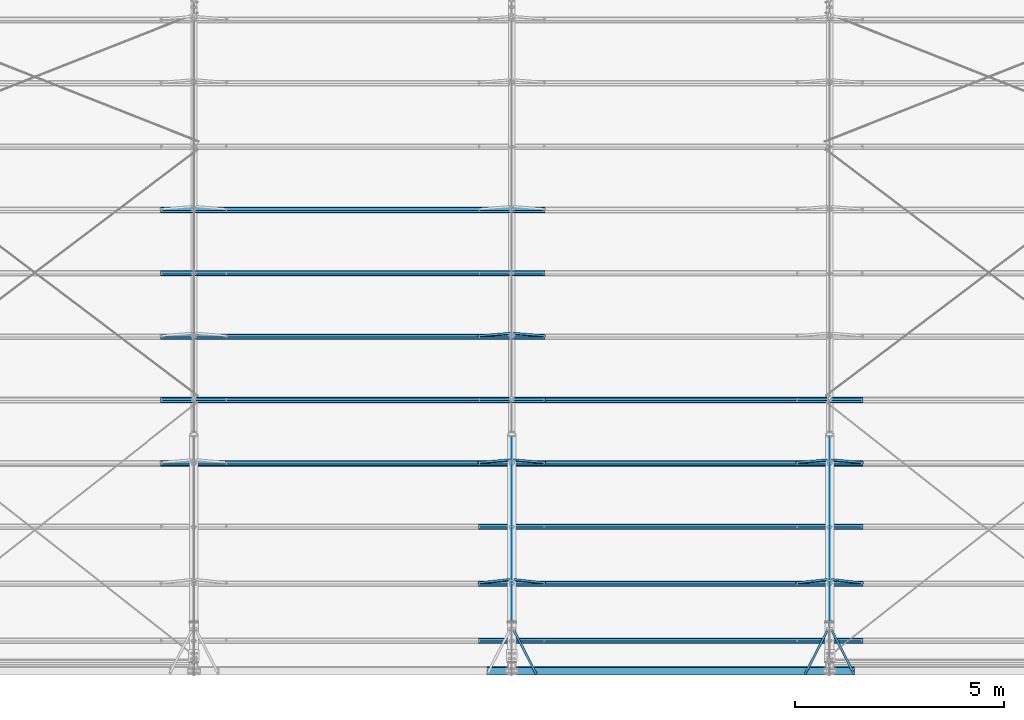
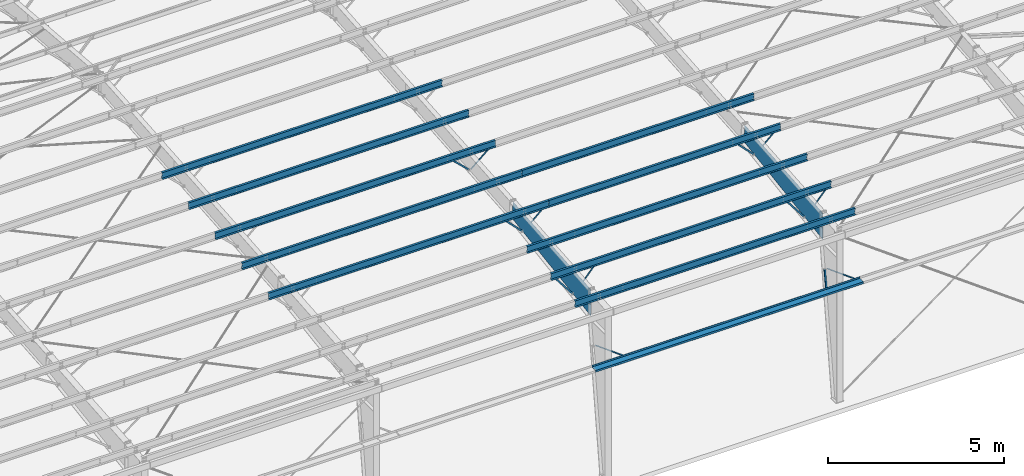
# One storey, part 9 of 185: 16 beams, 10 members, 26 elements without a shape of their own.
"""IFC2X3 building model written with IfcOpenShell, lengths in millimetres."""

from ifc_helpers import new_model, si_unit, frame, origin_with_axes, origin_2d_with_axis, place, context, subcontext, project, spatial, polyline, rectangle, outline, extrude, clip, halfspace, material, type_object, element, aggregate, save


model = new_model("IFC2X3")

# Units and contexts
model_context = context("Model", 3, precision=1e-05, world=origin_with_axes())
body_context = subcontext(model_context, "Body", "Model", "MODEL_VIEW")
ifc_project = project(units=[si_unit("LENGTHUNIT", "METRE", prefix="MILLI"), si_unit("AREAUNIT", "SQUARE_METRE"), si_unit("VOLUMEUNIT", "CUBIC_METRE"), si_unit("MASSUNIT", "GRAM", prefix="KILO"), si_unit("TIMEUNIT", "SECOND"), si_unit("PLANEANGLEUNIT", "RADIAN"), si_unit("SOLIDANGLEUNIT", "STERADIAN"), si_unit("THERMODYNAMICTEMPERATUREUNIT", "DEGREE_CELSIUS"), si_unit("LUMINOUSINTENSITYUNIT", "LUMEN")], contexts=[model_context])

# Site, building, storey
site_placement = place(None, origin_with_axes())
site = spatial("IfcSite", under=ifc_project, at=site_placement, Name="Undefined", CompositionType="ELEMENT")
building_placement = place(site_placement, origin_with_axes())
building = spatial("IfcBuilding", under=site, at=building_placement, Name="Undefined", CompositionType="ELEMENT")
storey_placement = place(building_placement, origin_with_axes())
storey = spatial("IfcBuildingStorey", under=building, at=storey_placement, Name="Undefined", CompositionType="ELEMENT", Elevation=0.0)

# Assembly, beam
assembly_1_placement = place(storey_placement, origin_with_axes())
assembly_1 = element("IfcElementAssembly", 1, at=assembly_1_placement, inside=storey, Name="Steel Assembly", AssemblyPlace="NOTDEFINED", PredefinedType="RIGID_FRAME")
ifc_material = material(Name="STEEL/55")
beam_type_1 = type_object("IfcBeamType", Name="8Z15", PredefinedType="NOTDEFINED")
beam_1_placement = place(assembly_1_placement, frame((22479.0, 823.080489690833, 6062.63787351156), z_axis=(0.0, 0.0830454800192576, -0.996545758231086), x_axis=(1.0, 0.0, 0.0)))
beam_1 = element("IfcBeam", 2, at=beam_1_placement, type_object=beam_type_1, material=ifc_material, Name="Purlin", ObjectType="8Z15", context=body_context, shape_type="Clipping", body=[
    clip(clip(extrude(outline(polyline([(-75.75, 87.0100021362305), (-63.5, 101.599998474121), (1.5900000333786, 101.599998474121), (1.5900000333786, -98.4199981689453), (62.0200004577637, -98.4199981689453), (73.3099975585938, -84.9700012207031), (75.7399978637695, -87.0100021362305), (63.5, -101.599998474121), (-1.5900000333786, -101.599998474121), (-1.5900000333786, 98.4199981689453), (-62.0200004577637, 98.4199981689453), (-73.3099975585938, 84.9700012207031), (-75.75, 87.0100021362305)])), frame((8420.1, 0.0, 0.0), z_axis=(-1.0, 0.0, 0.0), x_axis=(0.0, -1.0, 0.0)), (0.0, 0.0, 1.0), 9220.2), halfspace(frame((8420.1, 2.91402102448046e-09, -101.600000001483), z_axis=(-1.0, 0.0, 0.0), x_axis=(0.0, 0.0, 1.0)), True)), halfspace(frame((-800.1, 2.91402102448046e-09, -101.600000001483), z_axis=(-1.0, 0.0, 0.0), x_axis=(0.0, 0.0, 1.0)), False)),
])
aggregate(assembly_1, [beam_1])

assembly_2_placement = place(storey_placement, origin_with_axes())
assembly_2 = element("IfcElementAssembly", 3, at=assembly_2_placement, inside=storey, Name="Steel Assembly", AssemblyPlace="NOTDEFINED", PredefinedType="RIGID_FRAME")
beam_2_placement = place(assembly_2_placement, frame((22479.0, 2189.94265168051, 6176.54305390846), z_axis=(0.0, 0.0830454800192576, -0.996545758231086), x_axis=(1.0, 0.0, 0.0)))
beam_2 = element("IfcBeam", 4, at=beam_2_placement, type_object=beam_type_1, material=ifc_material, Name="Purlin", ObjectType="8Z15", context=body_context, shape_type="Clipping", body=[
    clip(clip(extrude(outline(polyline([(-75.75, 87.0100021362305), (-63.5, 101.599998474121), (1.5900000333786, 101.599998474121), (1.5900000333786, -98.4199981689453), (62.0200004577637, -98.4199981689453), (73.3099975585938, -84.9700012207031), (75.7399978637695, -87.0100021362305), (63.5, -101.599998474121), (-1.5900000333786, -101.599998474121), (-1.5900000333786, 98.4199981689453), (-62.0200004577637, 98.4199981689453), (-73.3099975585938, 84.9700012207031), (-75.75, 87.0100021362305)])), frame((8420.1, 0.0, 0.0), z_axis=(-1.0, 0.0, 0.0), x_axis=(0.0, -1.0, 0.0)), (0.0, 0.0, 1.0), 9220.2), halfspace(frame((8420.1, 2.91402102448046e-09, -101.600000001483), z_axis=(-1.0, 0.0, 0.0), x_axis=(0.0, 0.0, 1.0)), True)), halfspace(frame((-800.1, 2.91402102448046e-09, -101.600000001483), z_axis=(-1.0, 0.0, 0.0), x_axis=(0.0, 0.0, 1.0)), False)),
])
aggregate(assembly_2, [beam_2])

assembly_3_placement = place(storey_placement, origin_with_axes())
assembly_3 = element("IfcElementAssembly", 5, at=assembly_3_placement, inside=storey, Name="Steel Assembly", AssemblyPlace="NOTDEFINED", PredefinedType="RIGID_FRAME")
beam_3_placement = place(assembly_3_placement, frame((22479.0, 3556.8048136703, 6290.44823430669), z_axis=(0.0, 0.0830454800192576, -0.996545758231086), x_axis=(1.0, 0.0, 0.0)))
beam_3 = element("IfcBeam", 6, at=beam_3_placement, type_object=beam_type_1, material=ifc_material, Name="Purlin", ObjectType="8Z15", context=body_context, shape_type="Clipping", body=[
    clip(clip(extrude(outline(polyline([(-75.75, 87.0100021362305), (-63.5, 101.599998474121), (1.5900000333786, 101.599998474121), (1.5900000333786, -98.4199981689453), (62.0200004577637, -98.4199981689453), (73.3099975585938, -84.9700012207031), (75.7399978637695, -87.0100021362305), (63.5, -101.599998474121), (-1.5900000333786, -101.599998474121), (-1.5900000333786, 98.4199981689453), (-62.0200004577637, 98.4199981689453), (-73.3099975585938, 84.9700012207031), (-75.75, 87.0100021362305)])), frame((8420.1, 0.0, 0.0), z_axis=(-1.0, 0.0, 0.0), x_axis=(0.0, -1.0, 0.0)), (0.0, 0.0, 1.0), 9220.2), halfspace(frame((8420.1, 2.91402102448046e-09, -101.600000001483), z_axis=(-1.0, 0.0, 0.0), x_axis=(0.0, 0.0, 1.0)), True)), halfspace(frame((-800.1, 2.91402102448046e-09, -101.600000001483), z_axis=(-1.0, 0.0, 0.0), x_axis=(0.0, 0.0, 1.0)), False)),
])
aggregate(assembly_3, [beam_3])

assembly_4_placement = place(storey_placement, origin_with_axes())
assembly_4 = element("IfcElementAssembly", 7, at=assembly_4_placement, inside=storey, Name="Steel Assembly", AssemblyPlace="NOTDEFINED", PredefinedType="RIGID_FRAME")
beam_4_placement = place(assembly_4_placement, frame((22479.0, 5075.54054921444, 6417.00954585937), z_axis=(0.0, 0.0830454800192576, -0.996545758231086), x_axis=(1.0, 0.0, 0.0)))
beam_4 = element("IfcBeam", 8, at=beam_4_placement, type_object=beam_type_1, material=ifc_material, Name="Purlin", ObjectType="8Z15", context=body_context, shape_type="Clipping", body=[
    clip(clip(extrude(outline(polyline([(-75.75, 87.0100021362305), (-63.5, 101.599998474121), (1.5900000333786, 101.599998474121), (1.5900000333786, -98.4199981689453), (62.0200004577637, -98.4199981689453), (73.3099975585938, -84.9700012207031), (75.7399978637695, -87.0100021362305), (63.5, -101.599998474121), (-1.5900000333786, -101.599998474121), (-1.5900000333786, 98.4199981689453), (-62.0200004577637, 98.4199981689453), (-73.3099975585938, 84.9700012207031), (-75.75, 87.0100021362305)])), frame((8420.1, 0.0, 0.0), z_axis=(-1.0, 0.0, 0.0), x_axis=(0.0, -1.0, 0.0)), (0.0, 0.0, 1.0), 9220.2), halfspace(frame((8420.1, 2.91402102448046e-09, -101.600000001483), z_axis=(-1.0, 0.0, 0.0), x_axis=(0.0, 0.0, 1.0)), True)), halfspace(frame((-800.1, 2.91402102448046e-09, -101.600000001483), z_axis=(-1.0, 0.0, 0.0), x_axis=(0.0, 0.0, 1.0)), False)),
])
aggregate(assembly_4, [beam_4])

assembly_5_placement = place(storey_placement, origin_with_axes())
assembly_5 = element("IfcElementAssembly", 9, at=assembly_5_placement, inside=storey, Name="Steel Assembly", AssemblyPlace="NOTDEFINED", PredefinedType="RIGID_FRAME")
beam_5_placement = place(assembly_5_placement, frame((22479.0, 6594.27628475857, 6543.57085741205), z_axis=(0.0, 0.0830454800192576, -0.996545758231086), x_axis=(1.0, 0.0, 0.0)))
beam_5 = element("IfcBeam", 10, at=beam_5_placement, type_object=beam_type_1, material=ifc_material, Name="Purlin", ObjectType="8Z15", context=body_context, shape_type="Clipping", body=[
    clip(clip(extrude(outline(polyline([(-75.75, 87.0100021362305), (-63.5, 101.599998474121), (1.5900000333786, 101.599998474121), (1.5900000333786, -98.4199981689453), (62.0200004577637, -98.4199981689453), (73.3099975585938, -84.9700012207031), (75.7399978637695, -87.0100021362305), (63.5, -101.599998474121), (-1.5900000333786, -101.599998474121), (-1.5900000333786, 98.4199981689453), (-62.0200004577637, 98.4199981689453), (-73.3099975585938, 84.9700012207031), (-75.75, 87.0100021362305)])), frame((8420.1, 0.0, 0.0), z_axis=(-1.0, 0.0, 0.0), x_axis=(0.0, -1.0, 0.0)), (0.0, 0.0, 1.0), 9220.2), halfspace(frame((8420.1, 2.91402102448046e-09, -101.600000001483), z_axis=(-1.0, 0.0, 0.0), x_axis=(0.0, 0.0, 1.0)), True)), halfspace(frame((-800.1, 2.91402102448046e-09, -101.600000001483), z_axis=(-1.0, 0.0, 0.0), x_axis=(0.0, 0.0, 1.0)), False)),
])
aggregate(assembly_5, [beam_5])

assembly_6_placement = place(storey_placement, origin_with_axes())
assembly_6 = element("IfcElementAssembly", 11, at=assembly_6_placement, inside=storey, Name="Steel Assembly", AssemblyPlace="NOTDEFINED", PredefinedType="RIGID_FRAME")
beam_6_placement = place(assembly_6_placement, frame((14859.0, 5075.54054921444, 6417.00954585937), z_axis=(0.0, 0.0830454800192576, -0.996545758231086), x_axis=(1.0, 0.0, 0.0)))
beam_6 = element("IfcBeam", 12, at=beam_6_placement, type_object=beam_type_1, material=ifc_material, Name="Purlin", ObjectType="8Z15", context=body_context, shape_type="Clipping", body=[
    clip(clip(extrude(outline(polyline([(-75.75, 87.0100021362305), (-63.5, 101.599998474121), (1.5900000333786, 101.599998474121), (1.5900000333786, -98.4199981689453), (62.0200004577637, -98.4199981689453), (73.3099975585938, -84.9700012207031), (75.7399978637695, -87.0100021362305), (63.5, -101.599998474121), (-1.5900000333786, -101.599998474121), (-1.5900000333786, 98.4199981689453), (-62.0200004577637, 98.4199981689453), (-73.3099975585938, 84.9700012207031), (-75.75, 87.0100021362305)])), frame((8420.1, 0.0, 0.0), z_axis=(-1.0, 0.0, 0.0), x_axis=(0.0, -1.0, 0.0)), (0.0, 0.0, 1.0), 9220.2), halfspace(frame((8420.1, 2.91402102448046e-09, -101.600000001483), z_axis=(-1.0, 0.0, 0.0), x_axis=(0.0, 0.0, 1.0)), True)), halfspace(frame((-800.1, 2.91402102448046e-09, -101.600000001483), z_axis=(-1.0, 0.0, 0.0), x_axis=(0.0, 0.0, 1.0)), False)),
])
aggregate(assembly_6, [beam_6])

assembly_7_placement = place(storey_placement, origin_with_axes())
assembly_7 = element("IfcElementAssembly", 13, at=assembly_7_placement, inside=storey, Name="Steel Assembly", AssemblyPlace="NOTDEFINED", PredefinedType="RIGID_FRAME")
beam_7_placement = place(assembly_7_placement, frame((14859.0, 6594.27628475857, 6543.57085741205), z_axis=(0.0, 0.0830454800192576, -0.996545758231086), x_axis=(1.0, 0.0, 0.0)))
beam_7 = element("IfcBeam", 14, at=beam_7_placement, type_object=beam_type_1, material=ifc_material, Name="Purlin", ObjectType="8Z15", context=body_context, shape_type="Clipping", body=[
    clip(clip(extrude(outline(polyline([(-75.75, 87.0100021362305), (-63.5, 101.599998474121), (1.5900000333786, 101.599998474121), (1.5900000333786, -98.4199981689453), (62.0200004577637, -98.4199981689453), (73.3099975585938, -84.9700012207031), (75.7399978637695, -87.0100021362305), (63.5, -101.599998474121), (-1.5900000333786, -101.599998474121), (-1.5900000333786, 98.4199981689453), (-62.0200004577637, 98.4199981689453), (-73.3099975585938, 84.9700012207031), (-75.75, 87.0100021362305)])), frame((8420.1, 0.0, 0.0), z_axis=(-1.0, 0.0, 0.0), x_axis=(0.0, -1.0, 0.0)), (0.0, 0.0, 1.0), 9220.2), halfspace(frame((8420.1, 2.91402102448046e-09, -101.600000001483), z_axis=(-1.0, 0.0, 0.0), x_axis=(0.0, 0.0, 1.0)), True)), halfspace(frame((-800.1, 2.91402102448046e-09, -101.600000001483), z_axis=(-1.0, 0.0, 0.0), x_axis=(0.0, 0.0, 1.0)), False)),
])
aggregate(assembly_7, [beam_7])

assembly_8_placement = place(storey_placement, origin_with_axes())
assembly_8 = element("IfcElementAssembly", 15, at=assembly_8_placement, inside=storey, Name="Steel Assembly", AssemblyPlace="NOTDEFINED", PredefinedType="RIGID_FRAME")
beam_8_placement = place(assembly_8_placement, frame((14859.0, 8113.01202030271, 6670.13216896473), z_axis=(0.0, 0.0830454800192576, -0.996545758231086), x_axis=(1.0, 0.0, 0.0)))
beam_8 = element("IfcBeam", 16, at=beam_8_placement, type_object=beam_type_1, material=ifc_material, Name="Purlin", ObjectType="8Z15", context=body_context, shape_type="Clipping", body=[
    clip(clip(extrude(outline(polyline([(-75.75, 87.0100021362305), (-63.5, 101.599998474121), (1.5900000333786, 101.599998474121), (1.5900000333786, -98.4199981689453), (62.0200004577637, -98.4199981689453), (73.3099975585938, -84.9700012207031), (75.7399978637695, -87.0100021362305), (63.5, -101.599998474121), (-1.5900000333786, -101.599998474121), (-1.5900000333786, 98.4199981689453), (-62.0200004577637, 98.4199981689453), (-73.3099975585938, 84.9700012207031), (-75.75, 87.0100021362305)])), frame((8420.1, 0.0, 0.0), z_axis=(-1.0, 0.0, 0.0), x_axis=(0.0, -1.0, 0.0)), (0.0, 0.0, 1.0), 9220.2), halfspace(frame((8420.1, 2.91402102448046e-09, -101.600000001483), z_axis=(-1.0, 0.0, 0.0), x_axis=(0.0, 0.0, 1.0)), True)), halfspace(frame((-800.1, 2.91402102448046e-09, -101.600000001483), z_axis=(-1.0, 0.0, 0.0), x_axis=(0.0, 0.0, 1.0)), False)),
])
aggregate(assembly_8, [beam_8])

assembly_9_placement = place(storey_placement, origin_with_axes())
assembly_9 = element("IfcElementAssembly", 17, at=assembly_9_placement, inside=storey, Name="Steel Assembly", AssemblyPlace="NOTDEFINED", PredefinedType="RIGID_FRAME")
beam_9_placement = place(assembly_9_placement, frame((14859.0, 9631.74775584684, 6796.69348051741), z_axis=(0.0, 0.0830454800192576, -0.996545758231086), x_axis=(1.0, 0.0, 0.0)))
beam_9 = element("IfcBeam", 18, at=beam_9_placement, type_object=beam_type_1, material=ifc_material, Name="Purlin", ObjectType="8Z15", context=body_context, shape_type="Clipping", body=[
    clip(clip(extrude(outline(polyline([(-75.75, 87.0100021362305), (-63.5, 101.599998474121), (1.5900000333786, 101.599998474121), (1.5900000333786, -98.4199981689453), (62.0200004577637, -98.4199981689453), (73.3099975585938, -84.9700012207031), (75.7399978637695, -87.0100021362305), (63.5, -101.599998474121), (-1.5900000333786, -101.599998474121), (-1.5900000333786, 98.4199981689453), (-62.0200004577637, 98.4199981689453), (-73.3099975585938, 84.9700012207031), (-75.75, 87.0100021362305)])), frame((8420.1, 0.0, 0.0), z_axis=(-1.0, 0.0, 0.0), x_axis=(0.0, -1.0, 0.0)), (0.0, 0.0, 1.0), 9220.2), halfspace(frame((8420.1, 2.91402102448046e-09, -101.600000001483), z_axis=(-1.0, 0.0, 0.0), x_axis=(0.0, 0.0, 1.0)), True)), halfspace(frame((-800.1, 2.91402102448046e-09, -101.600000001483), z_axis=(-1.0, 0.0, 0.0), x_axis=(0.0, 0.0, 1.0)), False)),
])
aggregate(assembly_9, [beam_9])

assembly_10_placement = place(storey_placement, origin_with_axes())
assembly_10 = element("IfcElementAssembly", 19, at=assembly_10_placement, inside=storey, Name="Steel Assembly", AssemblyPlace="NOTDEFINED", PredefinedType="RIGID_FRAME")
beam_10_placement = place(assembly_10_placement, frame((14859.0, 11150.483491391, 6923.2547920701), z_axis=(0.0, 0.0830454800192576, -0.996545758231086), x_axis=(1.0, 0.0, 0.0)))
beam_10 = element("IfcBeam", 20, at=beam_10_placement, type_object=beam_type_1, material=ifc_material, Name="Purlin", ObjectType="8Z15", context=body_context, shape_type="Clipping", body=[
    clip(clip(extrude(outline(polyline([(-75.75, 87.0100021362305), (-63.5, 101.599998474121), (1.5900000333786, 101.599998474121), (1.5900000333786, -98.4199981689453), (62.0200004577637, -98.4199981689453), (73.3099975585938, -84.9700012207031), (75.7399978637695, -87.0100021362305), (63.5, -101.599998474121), (-1.5900000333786, -101.599998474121), (-1.5900000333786, 98.4199981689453), (-62.0200004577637, 98.4199981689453), (-73.3099975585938, 84.9700012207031), (-75.75, 87.0100021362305)])), frame((8420.1, 0.0, 0.0), z_axis=(-1.0, 0.0, 0.0), x_axis=(0.0, -1.0, 0.0)), (0.0, 0.0, 1.0), 9220.2), halfspace(frame((8420.1, 2.91402102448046e-09, -101.600000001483), z_axis=(-1.0, 0.0, 0.0), x_axis=(0.0, 0.0, 1.0)), True)), halfspace(frame((-800.1, 2.91402102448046e-09, -101.600000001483), z_axis=(-1.0, 0.0, 0.0), x_axis=(0.0, 0.0, 1.0)), False)),
])
aggregate(assembly_10, [beam_10])

assembly_11_placement = place(storey_placement, origin_with_axes())
assembly_11 = element("IfcElementAssembly", 21, at=assembly_11_placement, inside=storey, Name="Steel Assembly", AssemblyPlace="NOTDEFINED", PredefinedType="RIGID_FRAME")
beam_type_2 = type_object("IfcBeamType", Name="FB-", PredefinedType="NOTDEFINED")
beam_11_placement = place(assembly_11_placement, frame((30041.1290964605, 1116.84173202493, 4165.16497512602), z_axis=(0.0, 0.0, -1.0), x_axis=(-0.45556863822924, -0.890200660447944, 0.0)))
beam_11 = element("IfcBeam", 22, at=beam_11_placement, type_object=beam_type_2, material=ifc_material, Name="2X2 FLANGE BRACE X 60", ObjectType="FB-", context=body_context, shape_type="SweptSolid", body=[
    extrude(outline(polyline([(1.5900000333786, 1.59000003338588), (50.7999992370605, 1.59000003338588), (50.7999992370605, 7.27595761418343e-12), (0.0, 0.0), (0.0, 50.7999992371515), (1.5900000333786, 50.7999992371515), (1.5900000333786, 1.59000003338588)])), frame((1202.47881570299, 0.0, 0.0), z_axis=(-1.0, 0.0, 0.0), x_axis=(0.0, -1.0, 0.0)), (0.0, 0.0, 1.0), 1202.5),
])
aggregate(assembly_11, [beam_11])

assembly_12_placement = place(storey_placement, origin_with_axes())
assembly_12 = element("IfcElementAssembly", 23, at=assembly_12_placement, inside=storey, Name="Steel Assembly", AssemblyPlace="NOTDEFINED", PredefinedType="RIGID_FRAME")
beam_12_placement = place(assembly_12_placement, frame((30156.8709035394, 1116.84173202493, 4165.16497512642), z_axis=(-0.890200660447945, -0.455568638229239, 0.0), x_axis=(0.455568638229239, -0.890200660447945, 0.0)))
beam_12 = element("IfcBeam", 24, at=beam_12_placement, type_object=beam_type_2, material=ifc_material, Name="2X2 FLANGE BRACE X 60", ObjectType="FB-", context=body_context, shape_type="SweptSolid", body=[
    extrude(outline(polyline([(1.5900000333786, 1.59000003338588), (50.7999992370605, 1.59000003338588), (50.7999992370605, 7.27595761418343e-12), (0.0, 0.0), (0.0, 50.7999992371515), (1.5900000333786, 50.7999992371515), (1.5900000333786, 1.59000003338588)])), frame((1202.47881570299, 0.0, 0.0), z_axis=(-1.0, 0.0, 0.0), x_axis=(0.0, -1.0, 0.0)), (0.0, 0.0, 1.0), 1202.5),
])
aggregate(assembly_12, [beam_12])

assembly_13_placement = place(storey_placement, origin_with_axes())
assembly_13 = element("IfcElementAssembly", 25, at=assembly_13_placement, inside=storey, Name="Steel Assembly", AssemblyPlace="NOTDEFINED", PredefinedType="RIGID_FRAME")
beam_13_placement = place(assembly_13_placement, frame((22536.8709035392, 1116.84173202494, 4165.16497512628), z_axis=(-0.890200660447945, -0.455568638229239, 0.0), x_axis=(0.455568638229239, -0.890200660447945, 0.0)))
beam_13 = element("IfcBeam", 26, at=beam_13_placement, type_object=beam_type_2, material=ifc_material, Name="2X2 FLANGE BRACE X 60", ObjectType="FB-", context=body_context, shape_type="SweptSolid", body=[
    extrude(outline(polyline([(1.5900000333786, 1.59000003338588), (50.7999992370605, 1.59000003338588), (50.7999992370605, 7.27595761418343e-12), (0.0, 0.0), (0.0, 50.7999992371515), (1.5900000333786, 50.7999992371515), (1.5900000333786, 1.59000003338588)])), frame((1202.47881570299, 0.0, 0.0), z_axis=(-1.0, 0.0, 0.0), x_axis=(0.0, -1.0, 0.0)), (0.0, 0.0, 1.0), 1202.5),
])
aggregate(assembly_13, [beam_13])

assembly_14_placement = place(storey_placement, origin_with_axes())
assembly_14 = element("IfcElementAssembly", 27, at=assembly_14_placement, inside=storey, Name="Steel Assembly", AssemblyPlace="NOTDEFINED", PredefinedType="RIGID_FRAME")
beam_type_3 = type_object("IfcBeamType", Name="8Z16", PredefinedType="NOTDEFINED")
beam_14_placement = place(assembly_14_placement, frame((30099.0, 101.6, 4165.6), z_axis=(0.0, 1.0, 0.0), x_axis=(-1.0, 0.0, 0.0)))
beam_14 = element("IfcBeam", 28, at=beam_14_placement, type_object=beam_type_3, material=ifc_material, Name="Girt", ObjectType="8Z16", context=body_context, shape_type="Clipping", body=[
    clip(clip(extrude(outline(polyline([(73.3099975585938, -84.9700012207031), (75.7399978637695, -87.0100021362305), (63.5, -101.599998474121), (-1.5900000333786, -101.599998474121), (-1.5900000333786, 98.4199981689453), (-62.0200004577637, 98.4199981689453), (-73.3099975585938, 84.9700012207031), (-75.75, 87.0100021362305), (-63.5, 101.599998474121), (1.5900000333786, 101.599998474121), (1.5900000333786, -98.4199981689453), (62.0200004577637, -98.4199981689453), (73.3099975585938, -84.9700012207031)])), frame((8216.9, 0.0, 0.0), z_axis=(-1.0, 0.0, 0.0), x_axis=(0.0, -1.0, 0.0)), (0.0, 0.0, 1.0), 8813.8), halfspace(frame((8216.9, 0.0, -101.6), z_axis=(-1.0, 0.0, 0.0), x_axis=(0.0, -1.0, 0.0)), True)), halfspace(frame((-596.900000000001, 0.0, -101.6), z_axis=(-1.0, 0.0, 0.0), x_axis=(0.0, -1.0, 0.0)), False)),
])
aggregate(assembly_14, [beam_14])

# Assembly, member
assembly_15_placement = place(storey_placement, origin_with_axes())
assembly_15 = element("IfcElementAssembly", 29, at=assembly_15_placement, inside=storey, Name="Steel Assembly", AssemblyPlace="NOTDEFINED", PredefinedType="RIGID_FRAME")
member_type = type_object("IfcMemberType", Name="FB-", PredefinedType="NOTDEFINED")
member_1_placement = place(assembly_15_placement, frame((22433.3142891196, 8170.70729560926, 5977.78886512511), z_axis=(0.697745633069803, -0.0594892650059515, 0.713871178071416), x_axis=(-0.716345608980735, -0.0579446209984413, 0.6953354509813)))
member_1 = element("IfcMember", 30, at=member_1_placement, type_object=member_type, material=ifc_material, Name="2X2 FLANGE BRACE X 48", ObjectType="FB-", context=body_context, shape_type="SweptSolid", body=[
    extrude(outline(polyline([(1.5900000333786, 1.59000003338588), (50.7999992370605, 1.59000003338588), (50.7999992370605, 7.27595761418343e-12), (0.0, 0.0), (0.0, 50.7999992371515), (1.5900000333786, 50.7999992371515), (1.5900000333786, 1.59000003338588)])), frame((1067.82563693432, 1.82639893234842e-12, 1.75971317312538e-12), z_axis=(-1.0, 0.0, 0.0), x_axis=(0.0, -1.0, 0.0)), (0.0, 0.0, 1.0), 1067.8),
])
aggregate(assembly_15, [member_1])

assembly_16_placement = place(storey_placement, origin_with_axes())
assembly_16 = element("IfcElementAssembly", 31, at=assembly_16_placement, inside=storey, Name="Steel Assembly", AssemblyPlace="NOTDEFINED", PredefinedType="RIGID_FRAME")
member_2_placement = place(assembly_16_placement, frame((22431.5453898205, 5136.88686901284, 5680.85370823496), z_axis=(0.719276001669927, -0.0576937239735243, 0.692324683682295), x_axis=(-0.69472443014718, -0.0597326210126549, 0.716791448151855)))
member_2 = element("IfcMember", 32, at=member_2_placement, type_object=member_type, material=ifc_material, Name="2X2 FLANGE BRACE X 48", ObjectType="FB-", context=body_context, shape_type="SweptSolid", body=[
    extrude(outline(polyline([(1.5900000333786, 1.59000003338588), (50.7999992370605, 1.59000003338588), (50.7999992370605, 7.27595761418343e-12), (0.0, 0.0), (0.0, 50.7999992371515), (1.5900000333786, 50.7999992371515), (1.5900000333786, 1.59000003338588)])), frame((1098.50894489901, 0.0, -1.21958992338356e-13), z_axis=(-1.0, 0.0, 0.0), x_axis=(0.0, -1.0, 0.0)), (0.0, 0.0, 1.0), 1098.5),
])
aggregate(assembly_16, [member_2])

assembly_17_placement = place(storey_placement, origin_with_axes())
assembly_17 = element("IfcElementAssembly", 33, at=assembly_17_placement, inside=storey, Name="Steel Assembly", AssemblyPlace="NOTDEFINED", PredefinedType="RIGID_FRAME")
member_3_placement = place(assembly_17_placement, frame((22526.4546101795, 5136.88686900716, 5680.85370823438), z_axis=(0.0, 0.996545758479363, 0.0830454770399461), x_axis=(0.69472443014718, -0.0597326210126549, 0.716791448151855)))
member_3 = element("IfcMember", 34, at=member_3_placement, type_object=member_type, material=ifc_material, Name="2X2 FLANGE BRACE X 48", ObjectType="FB-", context=body_context, shape_type="SweptSolid", body=[
    extrude(outline(polyline([(1.5900000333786, 1.59000003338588), (50.7999992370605, 1.59000003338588), (50.7999992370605, 7.27595761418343e-12), (0.0, 0.0), (0.0, 50.7999992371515), (1.5900000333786, 50.7999992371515), (1.5900000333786, 1.59000003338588)])), frame((1098.50894489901, 0.0, -1.21958992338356e-13), z_axis=(-1.0, 0.0, 0.0), x_axis=(0.0, -1.0, 0.0)), (0.0, 0.0, 1.0), 1098.5),
])
aggregate(assembly_17, [member_3])

assembly_18_placement = place(storey_placement, origin_with_axes())
assembly_18 = element("IfcElementAssembly", 35, at=assembly_18_placement, inside=storey, Name="Steel Assembly", AssemblyPlace="NOTDEFINED", PredefinedType="RIGID_FRAME")
member_4_placement = place(assembly_18_placement, frame((30051.5453898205, 5136.88686901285, 5680.85370823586), z_axis=(0.719276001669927, -0.0576937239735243, 0.692324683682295), x_axis=(-0.69472443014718, -0.0597326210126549, 0.716791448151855)))
member_4 = element("IfcMember", 36, at=member_4_placement, type_object=member_type, material=ifc_material, Name="2X2 FLANGE BRACE X 48", ObjectType="FB-", context=body_context, shape_type="SweptSolid", body=[
    extrude(outline(polyline([(1.5900000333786, 1.59000003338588), (50.7999992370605, 1.59000003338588), (50.7999992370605, 7.27595761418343e-12), (0.0, 0.0), (0.0, 50.7999992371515), (1.5900000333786, 50.7999992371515), (1.5900000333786, 1.59000003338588)])), frame((1098.50894489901, 0.0, -1.21958992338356e-13), z_axis=(-1.0, 0.0, 0.0), x_axis=(0.0, -1.0, 0.0)), (0.0, 0.0, 1.0), 1098.5),
])
aggregate(assembly_18, [member_4])

assembly_19_placement = place(storey_placement, origin_with_axes())
assembly_19 = element("IfcElementAssembly", 37, at=assembly_19_placement, inside=storey, Name="Steel Assembly", AssemblyPlace="NOTDEFINED", PredefinedType="RIGID_FRAME")
member_5_placement = place(assembly_19_placement, frame((30146.4546101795, 5136.88686900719, 5680.85370823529), z_axis=(0.0, 0.996545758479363, 0.0830454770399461), x_axis=(0.69472443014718, -0.0597326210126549, 0.716791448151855)))
member_5 = element("IfcMember", 38, at=member_5_placement, type_object=member_type, material=ifc_material, Name="2X2 FLANGE BRACE X 48", ObjectType="FB-", context=body_context, shape_type="SweptSolid", body=[
    extrude(outline(polyline([(1.5900000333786, 1.59000003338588), (50.7999992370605, 1.59000003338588), (50.7999992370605, 7.27595761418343e-12), (0.0, 0.0), (0.0, 50.7999992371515), (1.5900000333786, 50.7999992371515), (1.5900000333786, 1.59000003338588)])), frame((1098.50894489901, 0.0, -1.21958992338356e-13), z_axis=(-1.0, 0.0, 0.0), x_axis=(0.0, -1.0, 0.0)), (0.0, 0.0, 1.0), 1098.5),
])
aggregate(assembly_19, [member_5])

assembly_20_placement = place(storey_placement, origin_with_axes())
assembly_20 = element("IfcElementAssembly", 39, at=assembly_20_placement, inside=storey, Name="Steel Assembly", AssemblyPlace="NOTDEFINED", PredefinedType="RIGID_FRAME")
member_6_placement = place(assembly_20_placement, frame((22427.4958275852, 2267.38595486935, 5247.22341530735), z_axis=(0.793088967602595, -0.0505834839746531, 0.60700181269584), x_axis=(-0.609105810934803, -0.0658624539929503, 0.790349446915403)))
member_6 = element("IfcMember", 40, at=member_6_placement, type_object=member_type, material=ifc_material, Name="2X2 FLANGE BRACE X 60", ObjectType="FB-", context=body_context, shape_type="SweptSolid", body=[
    extrude(outline(polyline([(1.5900000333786, 1.59000003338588), (50.7999992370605, 1.59000003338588), (50.7999992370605, 7.27595761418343e-12), (0.0, 0.0), (0.0, 50.7999992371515), (1.5900000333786, 50.7999992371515), (1.5900000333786, 1.59000003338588)])), frame((1245.77956857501, 4.37458686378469e-13, 1.95729871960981e-12), z_axis=(-1.0, 0.0, 0.0), x_axis=(0.0, -1.0, 0.0)), (0.0, 0.0, 1.0), 1245.8),
])
aggregate(assembly_20, [member_6])

assembly_21_placement = place(storey_placement, origin_with_axes())
assembly_21 = element("IfcElementAssembly", 41, at=assembly_21_placement, inside=storey, Name="Steel Assembly", AssemblyPlace="NOTDEFINED", PredefinedType="RIGID_FRAME")
member_7_placement = place(assembly_21_placement, frame((22530.5041724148, 2267.38595488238, 5247.22341530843), z_axis=(0.0, 0.996545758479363, 0.0830454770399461), x_axis=(0.609105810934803, -0.0658624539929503, 0.790349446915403)))
member_7 = element("IfcMember", 42, at=member_7_placement, type_object=member_type, material=ifc_material, Name="2X2 FLANGE BRACE X 60", ObjectType="FB-", context=body_context, shape_type="SweptSolid", body=[
    extrude(outline(polyline([(1.5900000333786, 1.59000003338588), (50.7999992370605, 1.59000003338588), (50.7999992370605, 7.27595761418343e-12), (0.0, 0.0), (0.0, 50.7999992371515), (1.5900000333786, 50.7999992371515), (1.5900000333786, 1.59000003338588)])), frame((1245.77956857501, 4.37458686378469e-13, 1.95729871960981e-12), z_axis=(-1.0, 0.0, 0.0), x_axis=(0.0, -1.0, 0.0)), (0.0, 0.0, 1.0), 1245.8),
])
aggregate(assembly_21, [member_7])

assembly_22_placement = place(storey_placement, origin_with_axes())
assembly_22 = element("IfcElementAssembly", 43, at=assembly_22_placement, inside=storey, Name="Steel Assembly", AssemblyPlace="NOTDEFINED", PredefinedType="RIGID_FRAME")
member_8_placement = place(assembly_22_placement, frame((30047.4958275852, 2267.38595486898, 5247.2234153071), z_axis=(0.793088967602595, -0.0505834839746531, 0.60700181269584), x_axis=(-0.609105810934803, -0.0658624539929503, 0.790349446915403)))
member_8 = element("IfcMember", 44, at=member_8_placement, type_object=member_type, material=ifc_material, Name="2X2 FLANGE BRACE X 60", ObjectType="FB-", context=body_context, shape_type="SweptSolid", body=[
    extrude(outline(polyline([(1.5900000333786, 1.59000003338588), (50.7999992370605, 1.59000003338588), (50.7999992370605, 7.27595761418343e-12), (0.0, 0.0), (0.0, 50.7999992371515), (1.5900000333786, 50.7999992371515), (1.5900000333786, 1.59000003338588)])), frame((1245.77956857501, 4.37458686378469e-13, 1.95729871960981e-12), z_axis=(-1.0, 0.0, 0.0), x_axis=(0.0, -1.0, 0.0)), (0.0, 0.0, 1.0), 1245.8),
])
aggregate(assembly_22, [member_8])

assembly_23_placement = place(storey_placement, origin_with_axes())
assembly_23 = element("IfcElementAssembly", 45, at=assembly_23_placement, inside=storey, Name="Steel Assembly", AssemblyPlace="NOTDEFINED", PredefinedType="RIGID_FRAME")
member_9_placement = place(assembly_23_placement, frame((30150.5041724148, 2267.38595488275, 5247.22341530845), z_axis=(0.0, 0.996545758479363, 0.0830454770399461), x_axis=(0.609105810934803, -0.0658624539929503, 0.790349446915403)))
member_9 = element("IfcMember", 46, at=member_9_placement, type_object=member_type, material=ifc_material, Name="2X2 FLANGE BRACE X 60", ObjectType="FB-", context=body_context, shape_type="SweptSolid", body=[
    extrude(outline(polyline([(1.5900000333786, 1.59000003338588), (50.7999992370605, 1.59000003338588), (50.7999992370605, 7.27595761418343e-12), (0.0, 0.0), (0.0, 50.7999992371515), (1.5900000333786, 50.7999992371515), (1.5900000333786, 1.59000003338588)])), frame((1245.77956857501, 4.37458686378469e-13, 1.95729871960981e-12), z_axis=(-1.0, 0.0, 0.0), x_axis=(0.0, -1.0, 0.0)), (0.0, 0.0, 1.0), 1245.8),
])
aggregate(assembly_23, [member_9])

assembly_24_placement = place(storey_placement, origin_with_axes())
assembly_24 = element("IfcElementAssembly", 47, at=assembly_24_placement, inside=storey, Name="Steel Assembly", AssemblyPlace="NOTDEFINED", PredefinedType="RIGID_FRAME")
member_10_placement = place(assembly_24_placement, frame((22524.6857108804, 8170.70729560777, 5977.7888651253), z_axis=(0.0, 0.996545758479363, 0.0830454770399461), x_axis=(0.716345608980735, -0.0579446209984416, 0.695335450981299)))
member_10 = element("IfcMember", 48, at=member_10_placement, type_object=member_type, material=ifc_material, Name="2X2 FLANGE BRACE X 48", ObjectType="FB-", context=body_context, shape_type="SweptSolid", body=[
    extrude(outline(polyline([(1.5900000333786, 1.59000003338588), (50.7999992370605, 1.59000003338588), (50.7999992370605, 7.27595761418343e-12), (0.0, 0.0), (0.0, 50.7999992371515), (1.5900000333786, 50.7999992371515), (1.5900000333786, 1.59000003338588)])), frame((1067.82563693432, 1.82639893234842e-12, 1.75971317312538e-12), z_axis=(-1.0, 0.0, 0.0), x_axis=(0.0, -1.0, 0.0)), (0.0, 0.0, 1.0), 1067.8),
])
aggregate(assembly_24, [member_10])

# Assembly, beam
assembly_25_placement = place(storey_placement, origin_with_axes())
assembly_25 = element("IfcElementAssembly", 49, at=assembly_25_placement, inside=storey, Name="Steel Assembly", AssemblyPlace="NOTDEFINED", PredefinedType="RIGID_FRAME")
beam_type_4 = type_object("IfcBeamType", Name="PL3/16\"X36\"", PredefinedType="NOTDEFINED")
beam_15_placement = place(assembly_25_placement, frame((30099.0, 1246.21677618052, 5529.25070197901), z_axis=(0.0, -0.0830454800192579, 0.996545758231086), x_axis=(0.0, 0.996545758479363, 0.0830454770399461)))
beam_15 = element("IfcBeam", 50, at=beam_15_placement, type_object=beam_type_4, material=ifc_material, Name="Web", ObjectType="PL3/16\"X36\"", context=body_context, shape_type="Clipping", body=[
    clip(clip(clip(extrude(rectangle(XDim=4.762, YDim=914.4, at=origin_2d_with_axis()), frame((4533.51247768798, 0.0, 9.72409825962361e-13), z_axis=(-1.0, 0.0, 0.0), x_axis=(0.0, -1.0, 0.0)), (0.0, 0.0, 1.0), 4585.0), halfspace(frame((-0.0884751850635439, 2.38124999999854, -457.200000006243), z_axis=(0.0668939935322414, 0.0, -0.997760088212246), x_axis=(0.0, -1.0, 0.0)), False)), halfspace(frame((4533.51247768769, 0.0, 457.199999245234), z_axis=(-1.0, 0.0, 0.0), x_axis=(0.0, -1.0, 0.0)), True)), halfspace(frame((76.0025415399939, 0.0, 455.892199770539), z_axis=(-0.996545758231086, 0.0, 0.0830454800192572), x_axis=(0.0, -1.0, 0.0)), False)),
])
aggregate(assembly_25, [beam_15])

assembly_26_placement = place(storey_placement, origin_with_axes())
assembly_26 = element("IfcElementAssembly", 51, at=assembly_26_placement, inside=storey, Name="Steel Assembly", AssemblyPlace="NOTDEFINED", PredefinedType="RIGID_FRAME")
beam_16_placement = place(assembly_26_placement, frame((22479.0, 1246.21677618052, 5529.25070197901), z_axis=(0.0, -0.0830454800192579, 0.996545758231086), x_axis=(0.0, 0.996545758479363, 0.0830454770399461)))
beam_16 = element("IfcBeam", 52, at=beam_16_placement, type_object=beam_type_4, material=ifc_material, Name="Web", ObjectType="PL3/16\"X36\"", context=body_context, shape_type="Clipping", body=[
    clip(clip(clip(extrude(rectangle(XDim=4.762, YDim=914.4, at=origin_2d_with_axis()), frame((4533.51247768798, 0.0, 9.72409825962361e-13), z_axis=(-1.0, 0.0, 0.0), x_axis=(0.0, -1.0, 0.0)), (0.0, 0.0, 1.0), 4585.0), halfspace(frame((-0.0884751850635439, 2.38124999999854, -457.200000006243), z_axis=(0.0668939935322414, 0.0, -0.997760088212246), x_axis=(0.0, -1.0, 0.0)), False)), halfspace(frame((4533.51247768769, 0.0, 457.199999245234), z_axis=(-1.0, 0.0, 0.0), x_axis=(0.0, -1.0, 0.0)), True)), halfspace(frame((76.0025415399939, 0.0, 455.892199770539), z_axis=(-0.996545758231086, 0.0, 0.0830454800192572), x_axis=(0.0, -1.0, 0.0)), False)),
])
aggregate(assembly_26, [beam_16])

save(model, "model.ifc")
